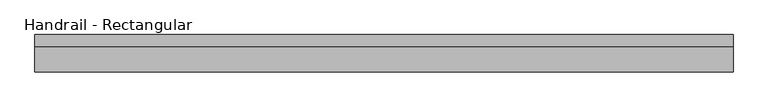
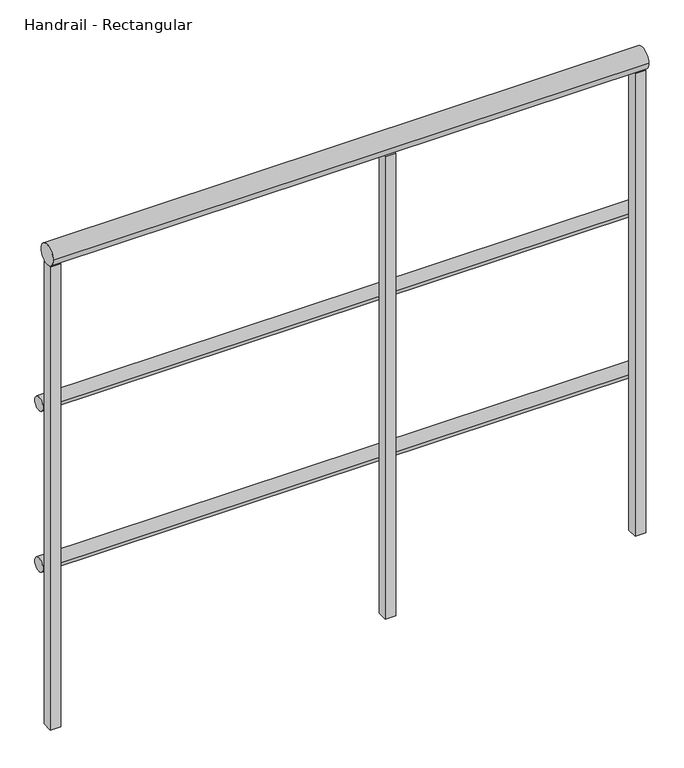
"""IFC4 building model written with IfcOpenShell, lengths in millimetres: railing geometry, Handrail - Rectangular."""

import ifcopenshell
import ifcopenshell.guid

model = None  # the IFC model being written
_history = None  # IfcOwnerHistory: only IFC2X3 demands one
_inside = {}  # id of a spatial element -> (the spatial element, [elements in it])
_under = {}  # id of a project, library or spatial element -> (it, [spatial elements below it])
_declared = {}  # id of a project -> (the project, [libraries it declares])
_typed = {}  # id of a type object -> (the type object, [elements of that type])
_made_of = {}  # id of a material, layer set ... -> (it, [elements and type objects made of it])


def new_model(schema):
    """Start an empty IFC model of exactly this schema.

    Asked for "IFC4X3", IfcOpenShell would pick the latest addendum, in which some entities
    have other attributes; the version numbers below select the first issue.
    IFC2X3 requires an IfcOwnerHistory on every rooted entity: one is made here for all.
    """
    global model, _history
    if schema == "IFC4X3":
        model = ifcopenshell.file(schema_version=(4, 3, 0, 0))
    else:
        model = ifcopenshell.file(schema=schema)
    _inside.clear()
    _under.clear()
    _declared.clear()
    _typed.clear()
    _made_of.clear()
    _history = None
    if model.schema == "IFC2X3":
        org = make("IfcOrganization", Name="unknown")
        user = make(
            "IfcPersonAndOrganization",
            ThePerson=make("IfcPerson", FamilyName="unknown"),
            TheOrganization=org,
        )
        app = make(
            "IfcApplication",
            ApplicationDeveloper=org,
            Version="unknown",
            ApplicationFullName="unknown",
            ApplicationIdentifier="unknown",
        )
        _history = make(
            "IfcOwnerHistory",
            OwningUser=user,
            OwningApplication=app,
            ChangeAction="ADDED",
            CreationDate=0,
        )
    return model


def make(cls, **values):
    """One entity of the class cls with the attributes given. An attribute that is None is left unset."""
    return model.create_entity(
        cls, **{name: value for name, value in values.items() if value is not None}
    )


def rooted(cls, **values):
    """An entity with a GlobalId (a new one), such as an element, a storey or a relation."""
    return make(cls, GlobalId=ifcopenshell.guid.new(), OwnerHistory=_history, **values)


def si_unit(unit_type, name, prefix=None):
    """IfcSIUnit, for example si_unit("LENGTHUNIT", "METRE", prefix="MILLI")."""
    return make("IfcSIUnit", UnitType=unit_type, Prefix=prefix, Name=name)


def assignment(units):
    """IfcUnitAssignment: the units of a project."""
    return None if units is None else make("IfcUnitAssignment", Units=units)


def point(xyz):
    """IfcCartesianPoint."""
    return None if xyz is None else make("IfcCartesianPoint", Coordinates=xyz)


def direction(xyz):
    """IfcDirection."""
    return None if xyz is None else make("IfcDirection", DirectionRatios=xyz)


def frame(location, z_axis=None, x_axis=None):
    """IfcAxis2Placement3D, a coordinate frame: its origin and axes. An axis left out is left unset."""
    return make(
        "IfcAxis2Placement3D",
        Location=point(location),
        Axis=direction(z_axis),
        RefDirection=direction(x_axis),
    )


def frame_2d(location, x_axis=None):
    """IfcAxis2Placement2D, a coordinate frame in the plane: its origin and x axis."""
    return make(
        "IfcAxis2Placement2D", Location=point(location), RefDirection=direction(x_axis)
    )


def origin():
    """The frame at (0, 0, 0) with its axes left unset."""
    return frame((0.0, 0.0, 0.0))


def place(relative_to, where):
    """IfcLocalPlacement: puts the frame where relative to a parent placement (None: the world)."""
    return make(
        "IfcLocalPlacement", PlacementRelTo=relative_to, RelativePlacement=where
    )


def context(
    kind, dimensions, precision=None, world=None, true_north=None, identifier=None
):
    """IfcGeometricRepresentationContext, for example the 3D "Model" context."""
    return make(
        "IfcGeometricRepresentationContext",
        ContextIdentifier=identifier,
        ContextType=kind,
        CoordinateSpaceDimension=dimensions,
        Precision=precision,
        WorldCoordinateSystem=world,
        TrueNorth=true_north,
    )


def project(units=None, contexts=None):
    """IfcProject with its units and contexts."""
    return rooted(
        "IfcProject",
        Name="project",
        RepresentationContexts=contexts,
        UnitsInContext=assignment(units),
    )


def spatial(cls, under=None, at=None, **own):
    """A site, building, storey or space (cls), placed at a placement, below another one or the project."""
    s = rooted(cls, ObjectPlacement=at, **own)
    if under is not None:
        _under.setdefault(under.id(), (under, []))[1].append(s)
    return s


def polyline(points):
    """IfcPolyline through the points."""
    return make("IfcPolyline", Points=[point(p) for p in points])


def circle_curve(where, radius):
    """IfcCircle in the frame where."""
    return make("IfcCircle", Position=where, Radius=radius)


def trimmed(basis, trim1, trim2, sense, master):
    """IfcTrimmedCurve: the piece of a basis curve between two trims."""
    return make(
        "IfcTrimmedCurve",
        BasisCurve=basis,
        Trim1=trim1,
        Trim2=trim2,
        SenseAgreement=sense,
        MasterRepresentation=master,
    )


def segment(curve, same_sense, transition):
    """IfcCompositeCurveSegment."""
    return make(
        "IfcCompositeCurveSegment",
        Transition=transition,
        SameSense=same_sense,
        ParentCurve=curve,
    )


def composite_curve(segments, self_intersect=None):
    """IfcCompositeCurve: segments joined end to end."""
    return make("IfcCompositeCurve", Segments=segments, SelfIntersect=self_intersect)


def outline(outer, holes=None, kind="AREA"):
    """IfcArbitraryClosedProfileDef: a profile drawn as a closed curve; with holes, ...WithVoids."""
    if holes is None:
        return make("IfcArbitraryClosedProfileDef", ProfileType=kind, OuterCurve=outer)
    return make(
        "IfcArbitraryProfileDefWithVoids",
        ProfileType=kind,
        OuterCurve=outer,
        InnerCurves=holes,
    )


def extrude(swept, where, along, depth):
    """IfcExtrudedAreaSolid: the profile swept, set in the frame where, extruded along a direction by depth."""
    return make(
        "IfcExtrudedAreaSolid",
        SweptArea=swept,
        Position=where,
        ExtrudedDirection=direction(along),
        Depth=depth,
    )


def shape(context_of_items, identifier, shape_type, items):
    """IfcShapeRepresentation: the items that make up one representation, for example the "Body"."""
    return make(
        "IfcShapeRepresentation",
        ContextOfItems=context_of_items,
        RepresentationIdentifier=identifier,
        RepresentationType=shape_type,
        Items=items,
    )


def source(mapping_origin, context_of_items, identifier, shape_type, items):
    """IfcRepresentationMap: a shape defined once, which mapped items show again and again."""
    return make(
        "IfcRepresentationMap",
        MappingOrigin=mapping_origin,
        MappedRepresentation=shape(context_of_items, identifier, shape_type, items),
    )


def transform(
    local_origin,
    x_axis=None,
    y_axis=None,
    z_axis=None,
    scale=None,
    scale2=None,
    scale3=None,
    uniform=True,
):
    """IfcCartesianTransformationOperator3D, or its non-uniform kind. x_axis, y_axis, z_axis: its Axis1, 2, 3."""
    if uniform:
        return make(
            "IfcCartesianTransformationOperator3D",
            Axis1=direction(x_axis),
            Axis2=direction(y_axis),
            LocalOrigin=point(local_origin),
            Scale=scale,
            Axis3=direction(z_axis),
        )
    return make(
        "IfcCartesianTransformationOperator3DnonUniform",
        Axis1=direction(x_axis),
        Axis2=direction(y_axis),
        LocalOrigin=point(local_origin),
        Scale=scale,
        Axis3=direction(z_axis),
        Scale2=scale2,
        Scale3=scale3,
    )


def mapped(mapping_source, mapping_target):
    """IfcMappedItem: shows the shape of a source again, moved by a transform."""
    return make(
        "IfcMappedItem", MappingSource=mapping_source, MappingTarget=mapping_target
    )


def made_of(thing, what):
    """Note that an element or type object is made of a material, layer set ...; save() writes the relation."""
    if what is not None:
        _made_of.setdefault(what.id(), (what, []))[1].append(thing)
    return thing


def element(
    cls,
    number,
    at=None,
    inside=None,
    cuts=None,
    type_object=None,
    material=None,
    context=None,
    identifier="Body",
    shape_type=None,
    held_by="IfcProductDefinitionShape",
    body=None,
    shapes=None,
    **own,
):
    """One element of the class cls, such as IfcWall. Its Tag is "e" and its number.

    at: its placement. inside: the storey or other place that contains it. cuts: it is an
    opening in that element (IfcRelVoidsElement). A single representation is given by context,
    identifier, shape_type and body (its items); several are given by shapes. held_by: the class
    of the entity that holds the representations. save() writes the other relations.
    """
    e = rooted(cls, Tag="e%d" % number, ObjectPlacement=at, **own)
    if body is not None:
        shapes = [shape(context, identifier, shape_type, body)]
    if shapes is not None:
        e.Representation = make(held_by, Representations=shapes)
    if inside is not None:
        _inside.setdefault(inside.id(), (inside, []))[1].append(e)
    if cuts is not None:
        rooted(
            "IfcRelVoidsElement", RelatingBuildingElement=cuts, RelatedOpeningElement=e
        )
    if type_object is not None:
        _typed.setdefault(type_object.id(), (type_object, []))[1].append(e)
    return made_of(e, material)


def aggregate(whole, parts):
    """IfcRelAggregates: a whole, such as a stair, and the parts it consists of."""
    return rooted("IfcRelAggregates", RelatingObject=whole, RelatedObjects=parts)


def save(model, path):
    """Write the relations noted so far, then the file.

    IfcRelAggregates (storeys below a building ...), IfcRelContainedInSpatialStructure (elements
    in a storey), IfcRelDefinesByType, IfcRelAssociatesMaterial and IfcRelDeclares: one each for
    every whole, place, type object, material and project.
    """
    for whole, parts in _under.values():
        aggregate(whole, parts)
    for where, things in _inside.values():
        rooted(
            "IfcRelContainedInSpatialStructure",
            RelatedElements=things,
            RelatingStructure=where,
        )
    for kind, things in _typed.values():
        rooted("IfcRelDefinesByType", RelatedObjects=things, RelatingType=kind)
    for what, things in _made_of.values():
        rooted("IfcRelAssociatesMaterial", RelatedObjects=things, RelatingMaterial=what)
    for by, libraries in _declared.values():
        rooted("IfcRelDeclares", RelatingContext=by, RelatedDefinitions=libraries)
    model.write(path)


def handrail_rectangular_67571a7d(model_context):
    return source(origin(), model_context, "Body", "SweptSolid", [
        extrude(outline(composite_curve([segment(trimmed(circle_curve(frame_2d((11970.2316867, 9740.9)), 12.7), [point((11982.9316867, 9740.9))], [point((11957.5316867, 9740.9))], False, "CARTESIAN"), True, "CONTINUOUS"), segment(trimmed(circle_curve(frame_2d((11970.2316867, 9740.9)), 12.7), [point((11957.5316867, 9740.9))], [point((11982.9316867, 9740.9))], False, "CARTESIAN"), True, "CONTINUOUS")], self_intersect=False)), frame((1027.1410437, 0.0, 0.0), z_axis=(1.0, 0.0, 0.0), x_axis=(0.0, 1.0, 0.0)), (0.0, 0.0, 1.0), 1066.8),
        extrude(outline(composite_curve([segment(trimmed(circle_curve(frame_2d((11970.2316867, 9436.1)), 12.7), [point((11982.9316867, 9436.1))], [point((11957.5316867, 9436.1))], False, "CARTESIAN"), True, "CONTINUOUS"), segment(trimmed(circle_curve(frame_2d((11970.2316867, 9436.1)), 12.7), [point((11957.5316867, 9436.1))], [point((11982.9316867, 9436.1))], False, "CARTESIAN"), True, "CONTINUOUS")], self_intersect=False)), frame((1027.1410437, 0.0, 0.0), z_axis=(1.0, 0.0, 0.0), x_axis=(0.0, 1.0, 0.0)), (0.0, 0.0, 1.0), 1066.8),
        extrude(outline(composite_curve([segment(trimmed(circle_curve(frame_2d((11944.8316867, 10039.35)), 19.05), [point((11963.8816867, 10039.35))], [point((11925.7816867, 10039.35))], False, "CARTESIAN"), True, "CONTINUOUS"), segment(trimmed(circle_curve(frame_2d((11944.8316867, 10039.35)), 19.05), [point((11925.7816867, 10039.35))], [point((11963.8816867, 10039.35))], False, "CARTESIAN"), True, "CONTINUOUS")], self_intersect=False)), frame((1027.1410437, 0.0, 0.0), z_axis=(1.0, 0.0, 0.0), x_axis=(0.0, 1.0, 0.0)), (0.0, 0.0, 1.0), 1066.8),
        extrude(outline(polyline([(1627.2160437, 11935.3066867), (1627.2160437, 11954.3566867), (1646.2660437, 11954.3566867), (1646.2660437, 11935.3066867), (1627.2160437, 11935.3066867)])), frame((0.0, 0.0, 9144.0), z_axis=(0.0, 0.0, 1.0), x_axis=(1.0, 0.0, 0.0)), (0.0, 0.0, 1.0), 876.3),
        extrude(outline(polyline([(2074.8910437, 11935.3066867), (2074.8910437, 11954.3566867), (2093.9410437, 11954.3566867), (2093.9410437, 11935.3066867), (2074.8910437, 11935.3066867)])), frame((0.0, 0.0, 9144.0), z_axis=(0.0, 0.0, 1.0), x_axis=(1.0, 0.0, 0.0)), (0.0, 0.0, 1.0), 876.3),
        extrude(outline(polyline([(1027.1410437, 11935.3066867), (1027.1410437, 11954.3566867), (1046.1910437, 11954.3566867), (1046.1910437, 11935.3066867), (1027.1410437, 11935.3066867)])), frame((0.0, 0.0, 9144.0), z_axis=(0.0, 0.0, 1.0), x_axis=(1.0, 0.0, 0.0)), (0.0, 0.0, 1.0), 876.3),
    ])


if __name__ == "__main__":
    model = new_model("IFC4")
    model_context = context("Model", 3, world=origin())
    ifc_project = project(units=[si_unit("LENGTHUNIT", "METRE", prefix="MILLI")], contexts=[model_context])
    site = spatial("IfcSite", under=ifc_project)
    building = spatial("IfcBuilding", under=site)
    placement = place(None, origin())
    handrail_rectangular_shape = handrail_rectangular_67571a7d(model_context)
    element("IfcRailing", 1, ObjectType="Handrail - Rectangular", at=placement, inside=building, context=model_context, shape_type="MappedRepresentation", body=[
        mapped(handrail_rectangular_shape, transform((0.0, 0.0, 0.0), x_axis=(1.0, 0.0, 0.0), y_axis=(0.0, 1.0, 0.0), z_axis=(0.0, 0.0, 1.0))),
    ])
    save(model, "model.ifc")
